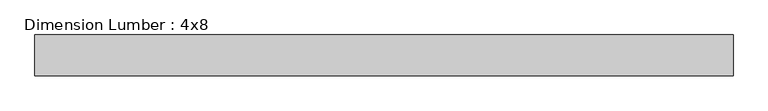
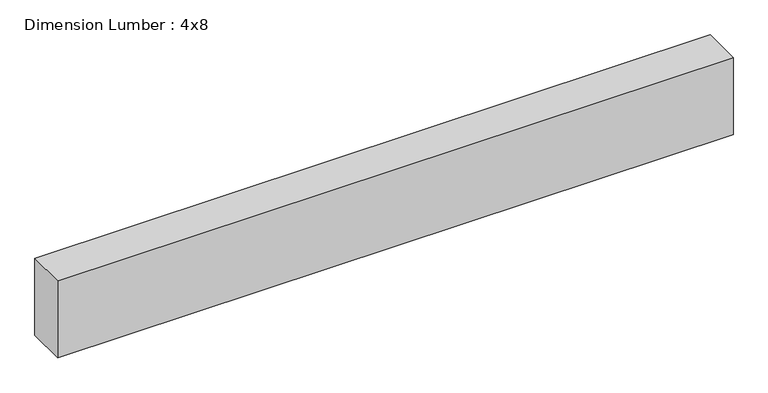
"""IFC4 building model written with IfcOpenShell, lengths in millimetres: beam geometry, Dimension Lumber : 4x8."""

from ifc_helpers import new_model, si_unit, frame, origin, place, context, project, spatial, polyline, outline, extrude, source, transform, mapped, element, save


def dimension_lumber_4x8_c4d472cb(model_context):
    return source(origin(), model_context, "Body", "SweptSolid", [
        extrude(outline(polyline([(762.0, 44.45), (762.0, -44.45), (-761.9999994, -44.45), (-761.9999994, 44.45), (762.0, 44.45)])), frame((0.0, 0.0, -92.075), z_axis=(0.0, 0.0, 1.0), x_axis=(1.0, 0.0, 0.0)), (0.0, 0.0, 1.0), 184.15),
    ])


if __name__ == "__main__":
    model = new_model("IFC4")
    model_context = context("Model", 3, world=origin())
    ifc_project = project(units=[si_unit("LENGTHUNIT", "METRE", prefix="MILLI")], contexts=[model_context])
    site = spatial("IfcSite", under=ifc_project)
    building = spatial("IfcBuilding", under=site)
    placement = place(None, origin())
    dimension_lumber_4x8_shape = dimension_lumber_4x8_c4d472cb(model_context)
    element("IfcBeam", 1, ObjectType="Dimension Lumber : 4x8", at=placement, inside=building, context=model_context, shape_type="MappedRepresentation", body=[
        mapped(dimension_lumber_4x8_shape, transform((0.0, 0.0, 0.0), x_axis=(1.0, 0.0, 0.0), y_axis=(0.0, 1.0, 0.0), z_axis=(0.0, 0.0, 1.0))),
    ])
    save(model, "model.ifc")
